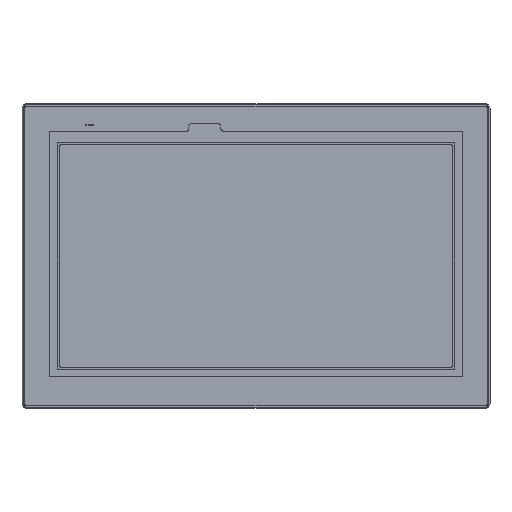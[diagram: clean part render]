
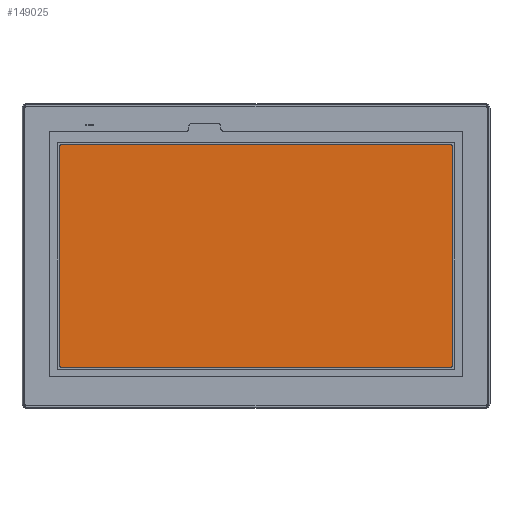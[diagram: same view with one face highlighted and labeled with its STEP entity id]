
A CAD part, top view. The second image highlights one B-rep face of the part: STEP entity #149025.
In plain terms, the highlighted planar face has unit normal (0, 0, 1).
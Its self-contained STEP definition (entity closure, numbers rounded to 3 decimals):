
#31400=DIRECTION('',(1.,0.,0.));
#31401=VECTOR('',#31400,344.23);
#31402=CARTESIAN_POINT('',(-172.115,-97.77,5.738));
#31403=LINE('',#31402,#31401);
#31412=DIRECTION('',(0.,1.,0.));
#31413=VECTOR('',#31412,193.54);
#31414=CARTESIAN_POINT('',(173.115,-96.77,5.738));
#31415=LINE('',#31414,#31413);
#31424=DIRECTION('',(-1.,0.,0.));
#31425=VECTOR('',#31424,344.23);
#31426=CARTESIAN_POINT('',(172.115,97.77,5.738));
#31427=LINE('',#31426,#31425);
#31436=DIRECTION('',(0.,-1.,0.));
#31437=VECTOR('',#31436,193.54);
#31438=CARTESIAN_POINT('',(-173.115,96.77,5.738));
#31439=LINE('',#31438,#31437);
#31440=CARTESIAN_POINT('',(-172.115,-96.77,5.738));
#31441=DIRECTION('',(0.,0.,-1.));
#31442=DIRECTION('',(0.,-1.,0.));
#31443=AXIS2_PLACEMENT_3D('',#31440,#31441,#31442);
#31445=CARTESIAN_POINT('',(-172.115,96.77,5.738));
#31446=DIRECTION('',(0.,0.,-1.));
#31447=DIRECTION('',(-1.,0.,0.));
#31448=AXIS2_PLACEMENT_3D('',#31445,#31446,#31447);
#31450=CARTESIAN_POINT('',(172.115,96.77,5.738));
#31451=DIRECTION('',(0.,0.,-1.));
#31452=DIRECTION('',(0.,1.,0.));
#31453=AXIS2_PLACEMENT_3D('',#31450,#31451,#31452);
#31455=CARTESIAN_POINT('',(172.115,-96.77,5.738));
#31456=DIRECTION('',(0.,0.,-1.));
#31457=DIRECTION('',(1.,0.,0.));
#31458=AXIS2_PLACEMENT_3D('',#31455,#31456,#31457);
#120585=CARTESIAN_POINT('',(-172.115,-97.77,5.738));
#120586=VERTEX_POINT('',#120585);
#120587=CARTESIAN_POINT('',(-173.115,-96.77,5.738));
#120588=VERTEX_POINT('',#120587);
#120589=CARTESIAN_POINT('',(172.115,-97.77,5.738));
#120590=VERTEX_POINT('',#120589);
#120591=CARTESIAN_POINT('',(173.115,-96.77,5.738));
#120592=VERTEX_POINT('',#120591);
#120593=CARTESIAN_POINT('',(173.115,96.77,5.738));
#120594=VERTEX_POINT('',#120593);
#120595=CARTESIAN_POINT('',(172.115,97.77,5.738));
#120596=VERTEX_POINT('',#120595);
#120597=CARTESIAN_POINT('',(-172.115,97.77,5.738));
#120598=VERTEX_POINT('',#120597);
#120599=CARTESIAN_POINT('',(-173.115,96.77,5.738));
#120600=VERTEX_POINT('',#120599);
#149010=CARTESIAN_POINT('',(0.,0.,5.738));
#149011=DIRECTION('',(0.,0.,1.));
#149012=DIRECTION('',(1.,0.,0.));
#149013=AXIS2_PLACEMENT_3D('',#149010,#149011,#149012);
#149014=PLANE('',#149013);
#149015=ORIENTED_EDGE('',*,*,#148922,.F.);
#149016=ORIENTED_EDGE('',*,*,#148908,.T.);
#149017=ORIENTED_EDGE('',*,*,#149005,.F.);
#149018=ORIENTED_EDGE('',*,*,#148992,.T.);
#149019=ORIENTED_EDGE('',*,*,#148978,.F.);
#149020=ORIENTED_EDGE('',*,*,#148964,.T.);
#149021=ORIENTED_EDGE('',*,*,#148950,.F.);
#149022=ORIENTED_EDGE('',*,*,#148936,.T.);
#149023=EDGE_LOOP('',(#149015,#149016,#149017,#149018,#149019,#149020,#149021,
#149022));
#149024=FACE_OUTER_BOUND('',#149023,.F.);
#149025=ADVANCED_FACE('',(#149024),#149014,.T.);
#31444=CIRCLE('',#31443,1.);
#31449=CIRCLE('',#31448,1.);
#31454=CIRCLE('',#31453,1.);
#31459=CIRCLE('',#31458,1.);
#148908=EDGE_CURVE('',#120586,#120588,#31444,.T.);
#148922=EDGE_CURVE('',#120586,#120590,#31403,.T.);
#148936=EDGE_CURVE('',#120592,#120590,#31459,.T.);
#148950=EDGE_CURVE('',#120592,#120594,#31415,.T.);
#148964=EDGE_CURVE('',#120596,#120594,#31454,.T.);
#148978=EDGE_CURVE('',#120596,#120598,#31427,.T.);
#148992=EDGE_CURVE('',#120600,#120598,#31449,.T.);
#149005=EDGE_CURVE('',#120600,#120588,#31439,.T.);
